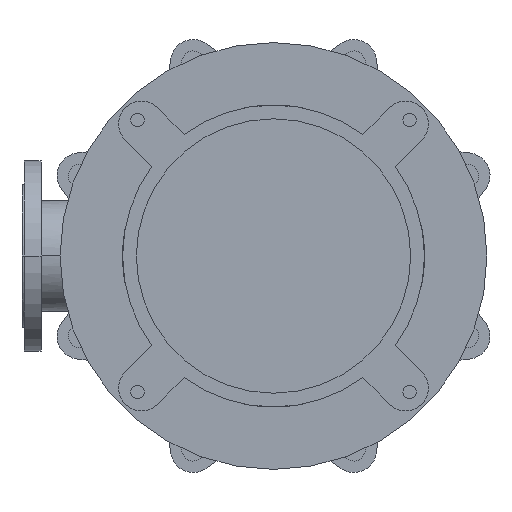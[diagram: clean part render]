
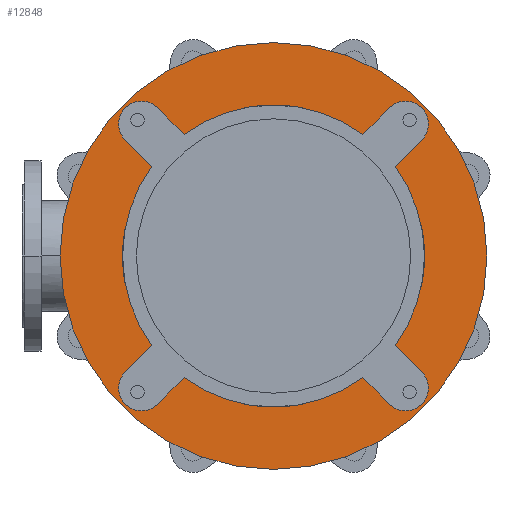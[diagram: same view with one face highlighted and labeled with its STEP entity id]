
A CAD part, front view. The second image highlights one B-rep face of the part: STEP entity #12848.
In plain terms, the highlighted planar face has unit normal (0, -1, 0).
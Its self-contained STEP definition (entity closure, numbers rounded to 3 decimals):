
#2489=CARTESIAN_POINT('',(0.,-25.,0.));
#2490=DIRECTION('',(0.,1.,0.));
#2491=DIRECTION('',(0.592,0.,-0.806));
#2492=AXIS2_PLACEMENT_3D('',#2489,#2490,#2491);
#2507=CARTESIAN_POINT('',(0.,-25.,0.));
#2508=DIRECTION('',(0.,1.,0.));
#2509=DIRECTION('',(0.806,0.,0.592));
#2510=AXIS2_PLACEMENT_3D('',#2507,#2508,#2509);
#2534=CARTESIAN_POINT('',(0.,-25.,0.));
#2535=DIRECTION('',(0.,1.,0.));
#2536=DIRECTION('',(-0.806,0.,-0.592));
#2537=AXIS2_PLACEMENT_3D('',#2534,#2535,#2536);
#2543=CARTESIAN_POINT('',(0.,-25.,0.));
#2544=DIRECTION('',(0.,1.,0.));
#2545=DIRECTION('',(-0.592,0.,0.806));
#2546=AXIS2_PLACEMENT_3D('',#2543,#2544,#2545);
#2721=CARTESIAN_POINT('',(0.,-25.,0.));
#2722=DIRECTION('',(0.,-1.,0.));
#2723=DIRECTION('',(-1.,0.,0.));
#2724=AXIS2_PLACEMENT_3D('',#2721,#2722,#2723);
#2726=CARTESIAN_POINT('',(0.,-25.,0.));
#2727=DIRECTION('',(0.,1.,0.));
#2728=DIRECTION('',(-1.,0.,0.));
#2729=AXIS2_PLACEMENT_3D('',#2726,#2727,#2728);
#2731=CARTESIAN_POINT('',(-173.241,-25.,173.241));
#2732=DIRECTION('',(0.,-1.,0.));
#2733=DIRECTION('',(0.707,0.,0.707));
#2734=AXIS2_PLACEMENT_3D('',#2731,#2732,#2733);
#2736=DIRECTION('',(0.707,0.,-0.707));
#2737=VECTOR('',#2736,49.286);
#2738=CARTESIAN_POINT('',(-194.454,-25.,152.028));
#2739=LINE('',#2738,#2737);
#2740=DIRECTION('',(-0.707,0.,-0.707));
#2741=VECTOR('',#2740,49.286);
#2742=CARTESIAN_POINT('',(-159.604,-25.,-117.178));
#2743=LINE('',#2742,#2741);
#2744=CARTESIAN_POINT('',(-173.241,-25.,-173.241));
#2745=DIRECTION('',(0.,-1.,0.));
#2746=DIRECTION('',(-0.707,0.,0.707));
#2747=AXIS2_PLACEMENT_3D('',#2744,#2745,#2746);
#2749=DIRECTION('',(0.707,0.,0.707));
#2750=VECTOR('',#2749,49.286);
#2751=CARTESIAN_POINT('',(-152.028,-25.,-194.454));
#2752=LINE('',#2751,#2750);
#2753=DIRECTION('',(0.707,0.,-0.707));
#2754=VECTOR('',#2753,49.286);
#2755=CARTESIAN_POINT('',(117.178,-25.,-159.604));
#2756=LINE('',#2755,#2754);
#2757=CARTESIAN_POINT('',(173.241,-25.,-173.241));
#2758=DIRECTION('',(0.,-1.,0.));
#2759=DIRECTION('',(-0.707,0.,-0.707));
#2760=AXIS2_PLACEMENT_3D('',#2757,#2758,#2759);
#2762=DIRECTION('',(-0.707,0.,0.707));
#2763=VECTOR('',#2762,49.286);
#2764=CARTESIAN_POINT('',(194.454,-25.,-152.028));
#2765=LINE('',#2764,#2763);
#2766=DIRECTION('',(0.707,0.,0.707));
#2767=VECTOR('',#2766,49.286);
#2768=CARTESIAN_POINT('',(159.604,-25.,117.178));
#2769=LINE('',#2768,#2767);
#2770=CARTESIAN_POINT('',(173.241,-25.,173.241));
#2771=DIRECTION('',(0.,-1.,0.));
#2772=DIRECTION('',(0.707,0.,-0.707));
#2773=AXIS2_PLACEMENT_3D('',#2770,#2771,#2772);
#2775=DIRECTION('',(-0.707,0.,-0.707));
#2776=VECTOR('',#2775,49.286);
#2777=CARTESIAN_POINT('',(152.028,-25.,194.454));
#2778=LINE('',#2777,#2776);
#2779=DIRECTION('',(-0.707,0.,0.707));
#2780=VECTOR('',#2779,49.286);
#2781=CARTESIAN_POINT('',(-117.178,-25.,159.604));
#2782=LINE('',#2781,#2780);
#8375=CARTESIAN_POINT('',(-280.,-25.,0.));
#8376=CARTESIAN_POINT('',(280.,-25.,0.));
#8377=VERTEX_POINT('',#8375);
#8378=VERTEX_POINT('',#8376);
#8399=CARTESIAN_POINT('',(-194.454,-25.,-152.028));
#8400=CARTESIAN_POINT('',(-152.028,-25.,-194.454));
#8401=VERTEX_POINT('',#8399);
#8402=VERTEX_POINT('',#8400);
#8403=CARTESIAN_POINT('',(-117.178,-25.,-159.604));
#8404=VERTEX_POINT('',#8403);
#8405=CARTESIAN_POINT('',(-159.604,-25.,-117.178));
#8406=VERTEX_POINT('',#8405);
#8415=CARTESIAN_POINT('',(152.028,-25.,-194.454));
#8416=CARTESIAN_POINT('',(194.454,-25.,-152.028));
#8417=VERTEX_POINT('',#8415);
#8418=VERTEX_POINT('',#8416);
#8419=CARTESIAN_POINT('',(159.604,-25.,-117.178));
#8420=VERTEX_POINT('',#8419);
#8421=CARTESIAN_POINT('',(117.178,-25.,-159.604));
#8422=VERTEX_POINT('',#8421);
#8431=CARTESIAN_POINT('',(194.454,-25.,152.028));
#8432=CARTESIAN_POINT('',(152.028,-25.,194.454));
#8433=VERTEX_POINT('',#8431);
#8434=VERTEX_POINT('',#8432);
#8435=CARTESIAN_POINT('',(117.178,-25.,159.604));
#8436=VERTEX_POINT('',#8435);
#8437=CARTESIAN_POINT('',(159.604,-25.,117.178));
#8438=VERTEX_POINT('',#8437);
#8447=CARTESIAN_POINT('',(-152.028,-25.,194.454));
#8448=CARTESIAN_POINT('',(-194.454,-25.,152.028));
#8449=VERTEX_POINT('',#8447);
#8450=VERTEX_POINT('',#8448);
#8451=CARTESIAN_POINT('',(-159.604,-25.,117.178));
#8452=VERTEX_POINT('',#8451);
#8453=CARTESIAN_POINT('',(-117.178,-25.,159.604));
#8454=VERTEX_POINT('',#8453);
#12808=CARTESIAN_POINT('',(0.,-25.,0.));
#12809=DIRECTION('',(0.,-1.,0.));
#12810=DIRECTION('',(-1.,0.,0.));
#12811=AXIS2_PLACEMENT_3D('',#12808,#12809,#12810);
#12812=PLANE('',#12811);
#12814=ORIENTED_EDGE('',*,*,#12813,.F.);
#12816=ORIENTED_EDGE('',*,*,#12815,.T.);
#12817=EDGE_LOOP('',(#12814,#12816));
#12818=FACE_OUTER_BOUND('',#12817,.F.);
#12820=ORIENTED_EDGE('',*,*,#12819,.T.);
#12822=ORIENTED_EDGE('',*,*,#12821,.T.);
#12823=ORIENTED_EDGE('',*,*,#12761,.F.);
#12825=ORIENTED_EDGE('',*,*,#12824,.T.);
#12827=ORIENTED_EDGE('',*,*,#12826,.T.);
#12829=ORIENTED_EDGE('',*,*,#12828,.T.);
#12830=ORIENTED_EDGE('',*,*,#12714,.F.);
#12831=ORIENTED_EDGE('',*,*,#12798,.T.);
#12833=ORIENTED_EDGE('',*,*,#12832,.T.);
#12835=ORIENTED_EDGE('',*,*,#12834,.T.);
#12836=ORIENTED_EDGE('',*,*,#12735,.F.);
#12838=ORIENTED_EDGE('',*,*,#12837,.T.);
#12840=ORIENTED_EDGE('',*,*,#12839,.T.);
#12842=ORIENTED_EDGE('',*,*,#12841,.T.);
#12843=ORIENTED_EDGE('',*,*,#12779,.F.);
#12845=ORIENTED_EDGE('',*,*,#12844,.T.);
#12846=EDGE_LOOP('',(#12820,#12822,#12823,#12825,#12827,#12829,#12830,#12831,
#12833,#12835,#12836,#12838,#12840,#12842,#12843,#12845));
#12847=FACE_BOUND('',#12846,.F.);
#12848=ADVANCED_FACE('',(#12818,#12847),#12812,.T.);
#2493=CIRCLE('',#2492,198.);
#2511=CIRCLE('',#2510,198.);
#2538=CIRCLE('',#2537,198.);
#2547=CIRCLE('',#2546,198.);
#2725=CIRCLE('',#2724,280.);
#2730=CIRCLE('',#2729,280.);
#2735=CIRCLE('',#2734,30.);
#2748=CIRCLE('',#2747,30.);
#2761=CIRCLE('',#2760,30.);
#2774=CIRCLE('',#2773,30.);
#12714=EDGE_CURVE('',#8422,#8404,#2493,.T.);
#12735=EDGE_CURVE('',#8438,#8420,#2511,.T.);
#12761=EDGE_CURVE('',#8406,#8452,#2538,.T.);
#12779=EDGE_CURVE('',#8454,#8436,#2547,.T.);
#12798=EDGE_CURVE('',#8422,#8417,#2756,.T.);
#12813=EDGE_CURVE('',#8377,#8378,#2725,.T.);
#12815=EDGE_CURVE('',#8377,#8378,#2730,.T.);
#12819=EDGE_CURVE('',#8449,#8450,#2735,.T.);
#12821=EDGE_CURVE('',#8450,#8452,#2739,.T.);
#12824=EDGE_CURVE('',#8406,#8401,#2743,.T.);
#12826=EDGE_CURVE('',#8401,#8402,#2748,.T.);
#12828=EDGE_CURVE('',#8402,#8404,#2752,.T.);
#12832=EDGE_CURVE('',#8417,#8418,#2761,.T.);
#12834=EDGE_CURVE('',#8418,#8420,#2765,.T.);
#12837=EDGE_CURVE('',#8438,#8433,#2769,.T.);
#12839=EDGE_CURVE('',#8433,#8434,#2774,.T.);
#12841=EDGE_CURVE('',#8434,#8436,#2778,.T.);
#12844=EDGE_CURVE('',#8454,#8449,#2782,.T.);
